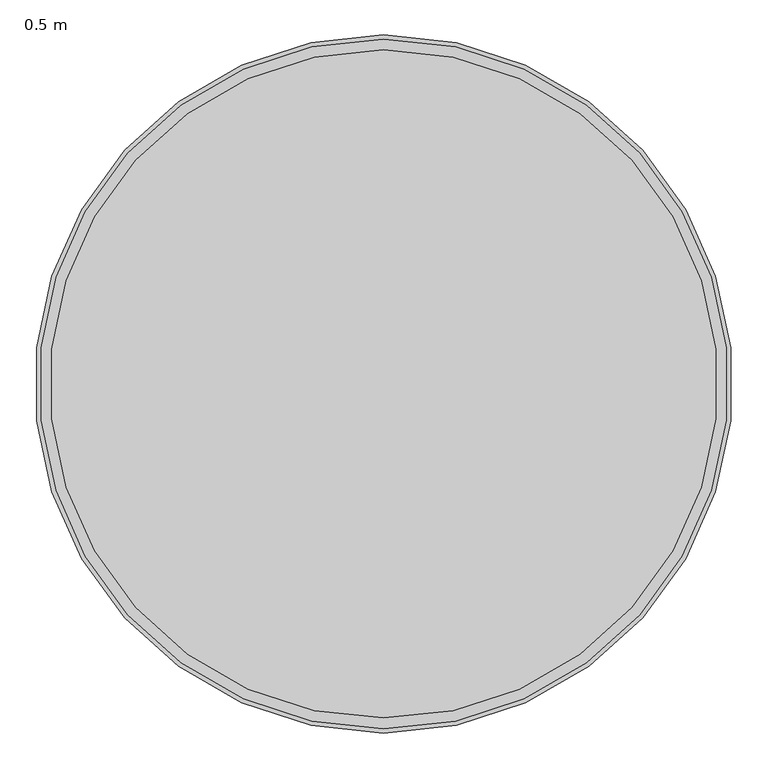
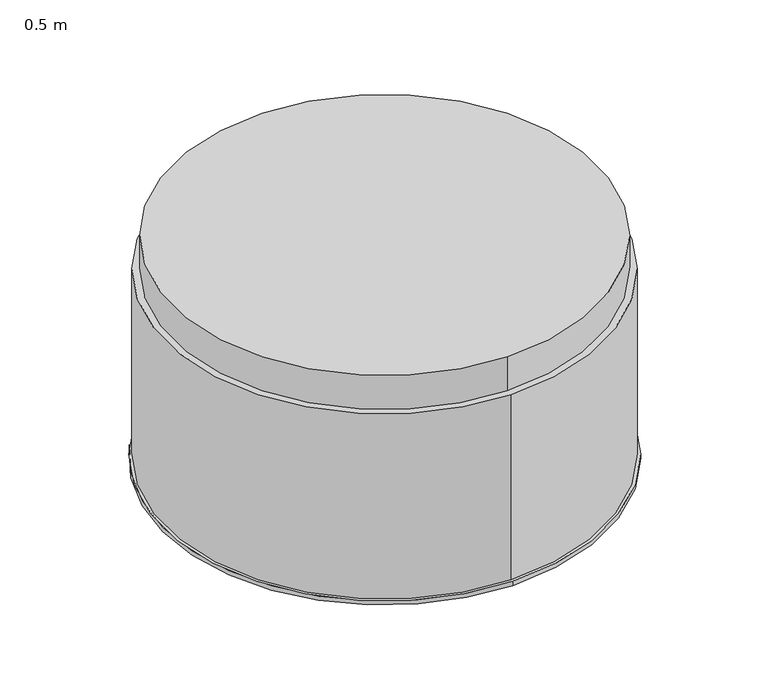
"""IFC4 building model written with IfcOpenShell, lengths in millimetres: valve geometry, Pipelife - Studnia PRO - Pierścień studni 1000 : 0.5 m."""

from ifc_helpers import new_model, si_unit, point, frame, origin, origin_with_axes, origin_2d, place, context, project, spatial, circle_curve, trimmed, segment, composite_curve, outline, extrude, source, transform, mapped, element, save


def valve_0_5_m_b7d96e5e(model_context):
    return source(origin(), model_context, "Body", "SweptSolid", [
        extrude(outline(composite_curve([segment(trimmed(circle_curve(origin_2d(), 533.0), [point((0.0, 533.0))], [point((0.0, -533.0))], False, "CARTESIAN"), True, "CONTINUOUS"), segment(trimmed(circle_curve(origin_2d(), 533.0), [point((0.0, -533.0))], [point((0.0, 533.0))], False, "CARTESIAN"), True, "CONTINUOUS")], self_intersect=False)), frame((0.0, 0.0, 503.0), z_axis=(0.0, 0.0, 1.0), x_axis=(1.0, 0.0, 0.0)), (0.0, 0.0, 1.0), 90.0),
        extrude(outline(composite_curve([segment(trimmed(circle_curve(origin_2d(), 550.0), [point((0.0, 550.0))], [point((0.0, -550.0))], False, "CARTESIAN"), True, "CONTINUOUS"), segment(trimmed(circle_curve(origin_2d(), 550.0), [point((0.0, -550.0))], [point((0.0, 550.0))], False, "CARTESIAN"), True, "CONTINUOUS")], self_intersect=False)), frame((0.0, 0.0, 11.0), z_axis=(0.0, 0.0, 1.0), x_axis=(1.0, 0.0, 0.0)), (0.0, 0.0, 1.0), 492.0),
        extrude(outline(composite_curve([segment(trimmed(circle_curve(origin_2d(), 557.0), [point((0.0, 557.0))], [point((0.0, -557.0))], False, "CARTESIAN"), True, "CONTINUOUS"), segment(trimmed(circle_curve(origin_2d(), 557.0), [point((0.0, -557.0))], [point((0.0, 557.0))], False, "CARTESIAN"), True, "CONTINUOUS")], self_intersect=False)), origin_with_axes(), (0.0, 0.0, 1.0), 11.0),
    ])


if __name__ == "__main__":
    model = new_model("IFC4")
    model_context = context("Model", 3, world=origin())
    ifc_project = project(units=[si_unit("LENGTHUNIT", "METRE", prefix="MILLI")], contexts=[model_context])
    site = spatial("IfcSite", under=ifc_project)
    building = spatial("IfcBuilding", under=site)
    placement = place(None, origin())
    valve_0_5_m_shape = valve_0_5_m_b7d96e5e(model_context)
    element("IfcValve", 1, ObjectType="Pipelife - Studnia PRO - Pierścień studni 1000 : 0.5 m", at=placement, inside=building, context=model_context, shape_type="MappedRepresentation", body=[
        mapped(valve_0_5_m_shape, transform((0.0, 0.0, 0.0), x_axis=(1.0, 0.0, 0.0), y_axis=(0.0, 1.0, 0.0), z_axis=(0.0, 0.0, 1.0))),
    ])
    save(model, "model.ifc")
